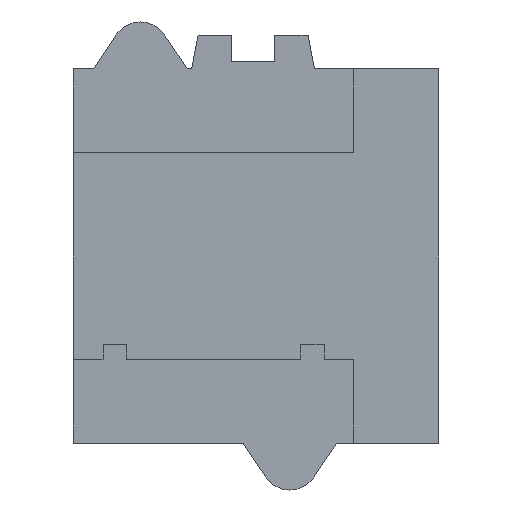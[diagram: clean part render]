
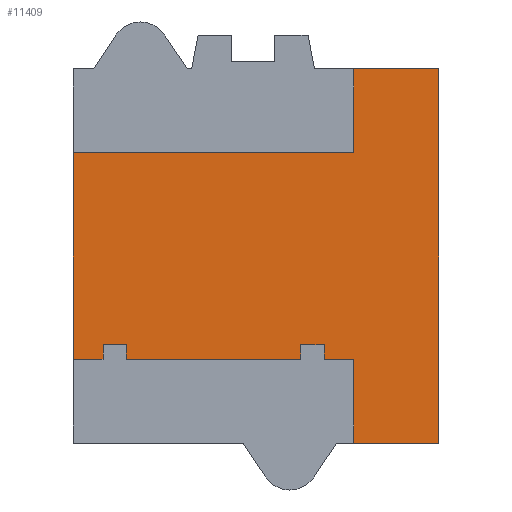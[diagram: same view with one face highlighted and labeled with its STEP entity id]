
A CAD part, front view. The second image highlights one B-rep face of the part: STEP entity #11409.
In plain terms, the highlighted planar face has unit normal (0, -1, 0).
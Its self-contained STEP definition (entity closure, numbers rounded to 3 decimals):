
#150 = CARTESIAN_POINT ( 'NONE',  ( -24., 4., 17.65 ) ) ;
#516 = EDGE_CURVE ( 'NONE', #15631, #11089, #8592, .T. ) ;
#536 = CARTESIAN_POINT ( 'NONE',  ( 0., 4., 17.65 ) ) ;
#575 = DIRECTION ( 'NONE',  ( -1., 0., 0. ) ) ;
#669 = VERTEX_POINT ( 'NONE', #9726 ) ;
#729 = LINE ( 'NONE', #2139, #7783 ) ;
#751 = DIRECTION ( 'NONE',  ( -1., 0., 0. ) ) ;
#804 = LINE ( 'NONE', #13834, #3914 ) ;
#1540 = VECTOR ( 'NONE', #7724, 1000. ) ;
#2039 = CARTESIAN_POINT ( 'NONE',  ( 38.5, 4., 32. ) ) ;
#2139 = CARTESIAN_POINT ( 'NONE',  ( 24., 4., -32. ) ) ;
#2165 = VERTEX_POINT ( 'NONE', #4963 ) ;
#2391 = DIRECTION ( 'NONE',  ( -1., 0., 0. ) ) ;
#2422 = ORIENTED_EDGE ( 'NONE', *, *, #14275, .F. ) ;
#2616 = LINE ( 'NONE', #10316, #6560 ) ;
#3288 = EDGE_CURVE ( 'NONE', #7667, #2165, #5226, .T. ) ;
#3461 = DIRECTION ( 'NONE',  ( 0., 0., -1. ) ) ;
#3779 = ORIENTED_EDGE ( 'NONE', *, *, #11530, .T. ) ;
#3914 = VECTOR ( 'NONE', #7265, 1000. ) ;
#4080 = VECTOR ( 'NONE', #8472, 1000. ) ;
#4113 = EDGE_CURVE ( 'NONE', #9579, #14950, #4502, .T. ) ;
#4196 = DIRECTION ( 'NONE',  ( 0., 0., 1. ) ) ;
#4502 = LINE ( 'NONE', #536, #4080 ) ;
#4959 = EDGE_CURVE ( 'NONE', #7667, #9439, #13567, .T. ) ;
#4963 = CARTESIAN_POINT ( 'NONE',  ( 38.5, 4., -32. ) ) ;
#4967 = CARTESIAN_POINT ( 'NONE',  ( 24., 4., 32. ) ) ;
#5226 = LINE ( 'NONE', #14310, #15738 ) ;
#5327 = CARTESIAN_POINT ( 'NONE',  ( 24., 4., -17.65 ) ) ;
#5509 = LINE ( 'NONE', #11166, #11710 ) ;
#5600 = ORIENTED_EDGE ( 'NONE', *, *, #13923, .F. ) ;
#6416 = DIRECTION ( 'NONE',  ( 0., 0., -1. ) ) ;
#6556 = VECTOR ( 'NONE', #751, 1000. ) ;
#6560 = VECTOR ( 'NONE', #2391, 1000. ) ;
#7265 = DIRECTION ( 'NONE',  ( 0., 0., -1. ) ) ;
#7667 = VERTEX_POINT ( 'NONE', #9232 ) ;
#7707 = ORIENTED_EDGE ( 'NONE', *, *, #3288, .F. ) ;
#7724 = DIRECTION ( 'NONE',  ( 0., 0., -1. ) ) ;
#7783 = VECTOR ( 'NONE', #3461, 1000. ) ;
#8125 = ORIENTED_EDGE ( 'NONE', *, *, #516, .T. ) ;
#8472 = DIRECTION ( 'NONE',  ( 1., 0., 0. ) ) ;
#8592 = LINE ( 'NONE', #16941, #1540 ) ;
#9232 = CARTESIAN_POINT ( 'NONE',  ( 38.5, 4., 32. ) ) ;
#9439 = VERTEX_POINT ( 'NONE', #4967 ) ;
#9579 = VERTEX_POINT ( 'NONE', #150 ) ;
#9726 = CARTESIAN_POINT ( 'NONE',  ( -24., 4., -17.65 ) ) ;
#10316 = CARTESIAN_POINT ( 'NONE',  ( 0., 4., -17.65 ) ) ;
#10353 = ORIENTED_EDGE ( 'NONE', *, *, #14383, .T. ) ;
#10412 = ORIENTED_EDGE ( 'NONE', *, *, #4113, .F. ) ;
#10796 = PLANE ( 'NONE',  #15944 ) ;
#11089 = VERTEX_POINT ( 'NONE', #12626 ) ;
#11166 = CARTESIAN_POINT ( 'NONE',  ( 38.5, 4., -32. ) ) ;
#11409 = ADVANCED_FACE ( 'NONE', ( #16669 ), #10796, .F. ) ;
#11530 = EDGE_CURVE ( 'NONE', #9579, #669, #804, .T. ) ;
#11710 = VECTOR ( 'NONE', #575, 1000. ) ;
#12041 = CARTESIAN_POINT ( 'NONE',  ( 0., 4., 0. ) ) ;
#12107 = DIRECTION ( 'NONE',  ( 0., 1., 0. ) ) ;
#12626 = CARTESIAN_POINT ( 'NONE',  ( 24., 4., -32. ) ) ;
#13567 = LINE ( 'NONE', #2039, #6556 ) ;
#13834 = CARTESIAN_POINT ( 'NONE',  ( -24., 4., -32. ) ) ;
#13923 = EDGE_CURVE ( 'NONE', #15631, #669, #2616, .T. ) ;
#14147 = ORIENTED_EDGE ( 'NONE', *, *, #4959, .T. ) ;
#14275 = EDGE_CURVE ( 'NONE', #2165, #11089, #5509, .T. ) ;
#14281 = CARTESIAN_POINT ( 'NONE',  ( 24., 4., 17.65 ) ) ;
#14310 = CARTESIAN_POINT ( 'NONE',  ( 38.5, 4., -32. ) ) ;
#14383 = EDGE_CURVE ( 'NONE', #9439, #14950, #729, .T. ) ;
#14950 = VERTEX_POINT ( 'NONE', #14281 ) ;
#15631 = VERTEX_POINT ( 'NONE', #5327 ) ;
#15738 = VECTOR ( 'NONE', #6416, 1000. ) ;
#15944 = AXIS2_PLACEMENT_3D ( 'NONE', #12041, #12107, #4196 ) ;
#16268 = EDGE_LOOP ( 'NONE', ( #5600, #8125, #2422, #7707, #14147, #10353, #10412, #3779 ) ) ;
#16669 = FACE_OUTER_BOUND ( 'NONE', #16268, .T. ) ;
#16941 = CARTESIAN_POINT ( 'NONE',  ( 24., 4., -32. ) ) ;
